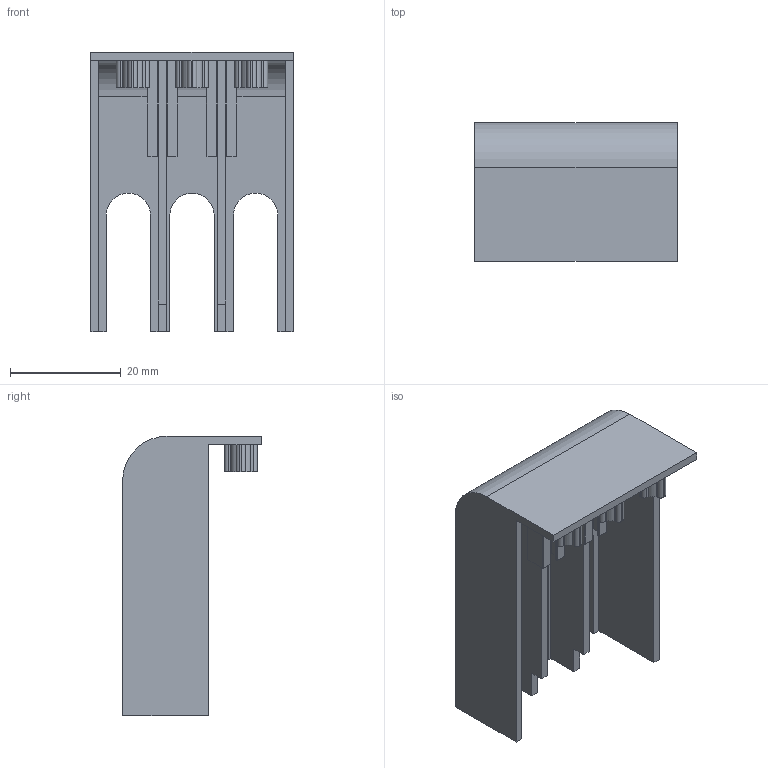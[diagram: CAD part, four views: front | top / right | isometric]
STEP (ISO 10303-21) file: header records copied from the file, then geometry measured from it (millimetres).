
FILE_DESCRIPTION (( 'STEP AP203' ), '1' );
FILE_NAME ('Êðûøêà êëåììíàÿ OptiSwitch DI-16-63 (äëÿ OptiSwitch DI-16-63Ñ_âåðõíÿÿ,ñïðàâà).STEP', '2023-03-23T19:34:33', ( 'Ïîëüçîâàòåëü' ), ( '' ), 'SwSTEP 2.0', 'SolidWorks 2018', '' );
FILE_SCHEMA (( 'CONFIG_CONTROL_DESIGN' ));
Length unit declared in the file: millimetre
Products named in the file (2): Êðûøêà êëåììíàÿ OptiSwitch DI-16-63; Êðûøêà êëåììíàÿ OptiSwitch DI-16-63 (äëÿ OptiSwitch DI-16-63Ñ_âåðõíÿÿ,ñïðàâà)
Assembly tree (1 placements, depth 2):
  Êðûøêà êëåììíàÿ OptiSwitch DI-16-63 (äëÿ OptiSwitch DI-16-63Ñ_âåðõíÿÿ,ñïðàâà)
    Êðûøêà êëåììíàÿ OptiSwitch DI-16-63
Bounding box: 36.5 x 25 x 50.4 mm (x, y, z)
Volume: 6704.6 mm3; surface area: 9893.1 mm2
Topology: 1 solids, 1 shells, 173 faces, 495 edges, 330 vertices
Faces by surface type: plane 103, cylinder 70
Full cylindrical faces by diameter (mm): 1.9 x3
Entity records: 5850 total; most frequent: CARTESIAN_POINT 999, DIRECTION 986, ORIENTED_EDGE 984, EDGE_CURVE 492, LINE 352, VECTOR 352, VERTEX_POINT 330, AXIS2_PLACEMENT_3D 317
